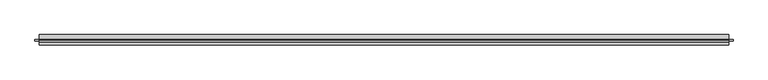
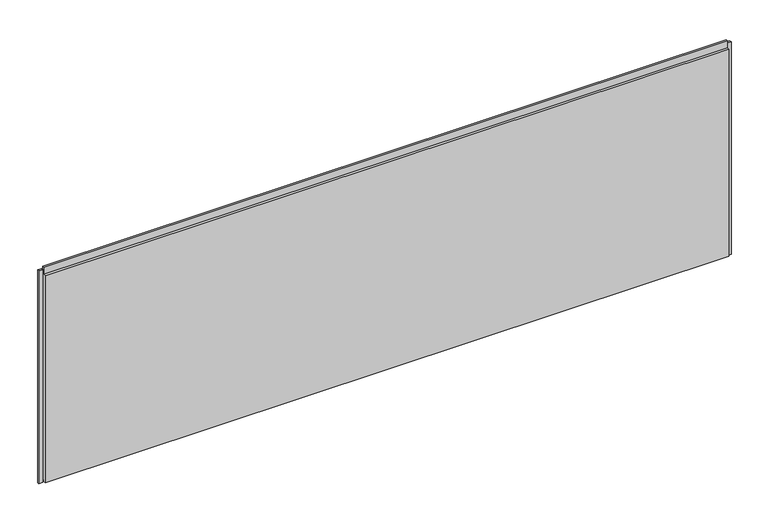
"""IFC4 building model written with IfcOpenShell, lengths in millimetres: plate geometry, Trimo_Qbiss Screen_Normal Panel-HORIZONTAL : HR - B."""

from ifc_helpers import new_model, si_unit, frame, origin, place, context, project, spatial, polyline, outline, extrude, source, transform, mapped, element, save


def plate_b266ea8f(model_context):
    return source(origin(), model_context, "Body", "SweptSolid", [
        extrude(outline(polyline([(-1692.4549816, 76.5978162), (-1692.4549816, 67.8978162), (-1711.4549816, 67.8978162), (-1711.4549816, 76.5978162), (-1692.4549816, 76.5978162)])), frame((0.0, 0.0, -1.0), z_axis=(0.0, 0.0, 1.0), x_axis=(1.0, 0.0, 0.0)), (0.0, 0.0, 1.0), 1112.5),
        extrude(outline(polyline([(1692.4549816, 67.8978162), (1692.4549816, 76.5978162), (1711.4549816, 76.5978162), (1711.4549816, 67.8978162), (1692.4549816, 67.8978162)])), frame((0.0, 0.0, -1.0), z_axis=(0.0, 0.0, 1.0), x_axis=(1.0, 0.0, 0.0)), (0.0, 0.0, 1.0), 1112.5),
        extrude(outline(polyline([(1689.4549816, 76.0), (1689.4549816, 71.0), (-1689.4549816, 71.0), (-1689.4549816, 76.0), (1689.4549816, 76.0)])), frame((0.0, 0.0, 1090.5), z_axis=(0.0, 0.0, 1.0), x_axis=(1.0, 0.0, 0.0)), (0.0, 0.0, 1.0), 21.0),
        extrude(outline(polyline([(71.0, 1089.5), (100.0, 1089.5), (100.0, 0.0), (72.0, 0.0), (72.0, 15.5), (62.0, 15.5), (62.0, 7.0), (50.0, 7.0), (50.0, 1089.5), (63.0, 1089.5), (63.0, 1127.0), (71.0, 1127.0), (71.0, 1089.5)])), frame((-1689.4549816, 0.0, 0.0), z_axis=(1.0, 0.0, 0.0), x_axis=(0.0, 1.0, 0.0)), (0.0, 0.0, 1.0), 3378.9099631),
    ])


if __name__ == "__main__":
    model = new_model("IFC4")
    model_context = context("Model", 3, world=origin())
    ifc_project = project(units=[si_unit("LENGTHUNIT", "METRE", prefix="MILLI")], contexts=[model_context])
    site = spatial("IfcSite", under=ifc_project)
    building = spatial("IfcBuilding", under=site)
    placement = place(None, origin())
    plate_shape = plate_b266ea8f(model_context)
    element("IfcPlate", 1, ObjectType="Trimo_Qbiss Screen_Normal Panel-HORIZONTAL : HR - B", at=placement, inside=building, context=model_context, shape_type="MappedRepresentation", body=[
        mapped(plate_shape, transform((0.0, 0.0, 0.0), x_axis=(1.0, 0.0, 0.0), y_axis=(0.0, 1.0, 0.0), z_axis=(0.0, 0.0, 1.0))),
    ])
    save(model, "model.ifc")
